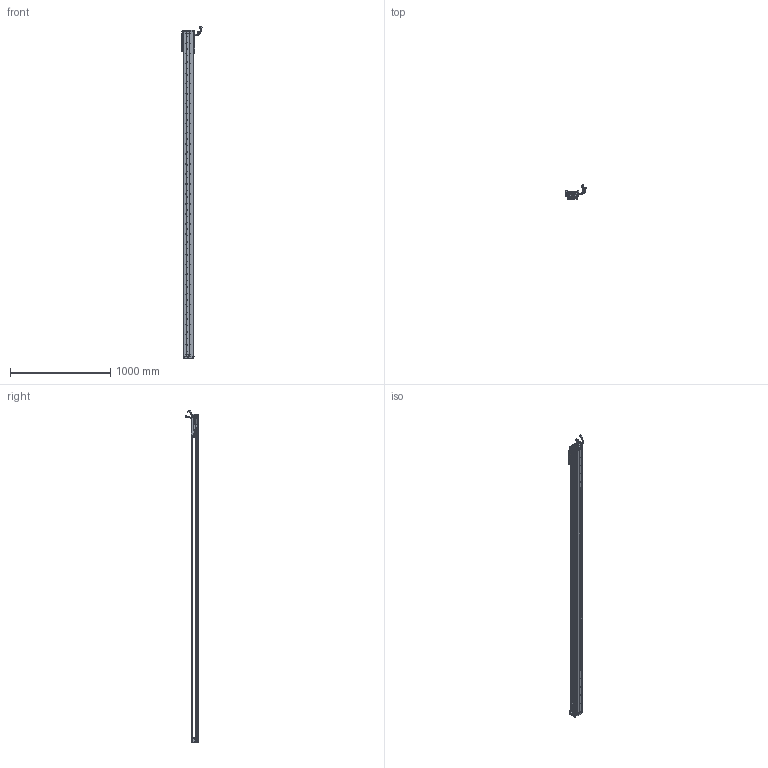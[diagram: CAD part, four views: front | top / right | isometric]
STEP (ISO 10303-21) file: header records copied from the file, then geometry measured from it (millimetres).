
FILE_DESCRIPTION (( 'STEP AP203' ), '1' );
FILE_NAME ('Z2-RY100D-1-L500-B-K.SLDASM_3000.step', '2021-05-17T02:38:51', ( '盈信电脑' ), ( '东莞市道滘镇水果街19号' ), 'SwSTEP 2.0', 'SolidWorks 2016', '' );
FILE_SCHEMA (( 'CONFIG_CONTROL_DESIGN' ));
Length unit declared in the file: millimetre
Products named in the file (36): SCREW-M1.6-3; HARNESS; 覜茼ん672; COVER-Part-1; Z-RY100D詩湍奻揤裔; 140蚥薯蝶輸; SCREW-M1.7-1; SCREW-M1.6; 140雄赽晤鎢ん堤盄; 100-Z-臏賑輸盄裔(21遴); SCREW-M1.7; SHIELDPLATE; LABEL-Part-1; Z-RY100D詩湍狟揤裔; HARNESS-Part-1; SCREW-M1.6-2; HARNESS-Part-2; SEAL-Part-1; SEAL; Z2-RY100D-1-L500-B-K.SLDASM_3000; Z2-RY100D-500-倰第菁釱_3000; SCREW-M1.6-1; SCALE; HOLDER0; Z2-RY100铝滑块（21款）; SCALE-Part-2; LABEL; 080黍杅芛假蚾釱21遴; 榋妏寠巭燃_暯_M2_2; Z-100詩湍傷裔啣; COVER; PBU_SHEET; Z-RY100D覜茼んえ; SCALE-Part-1; Z2-RY100-L500詩湍90mm遵_3000; PSLH080_PSLF2
Assembly tree (43 placements, depth 4):
  Z2-RY100D-1-L500-B-K.SLDASM_3000
    Z2-RY100D-500-倰第菁釱_3000
    Z2-RY100铝滑块（21款）
    PSLH080_PSLF2
      SCALE
        SCALE-Part-1
        SCALE-Part-2
      HARNESS
        HARNESS-Part-1
        HARNESS-Part-2
      LABEL
        LABEL-Part-1
      COVER
        COVER-Part-1
      SEAL
        SEAL-Part-1
      榋妏寠巭燃_暯_M2_2
      SHIELDPLATE
      SCREW-M1.7
      SCREW-M1.7-1
      PBU_SHEET
      SCREW-M1.6
      SCREW-M1.6-1
      SCREW-M1.6-2
      SCREW-M1.6-3
      HOLDER0
    080黍杅芛假蚾釱21遴
    Z-100詩湍傷裔啣  x2
    140蚥薯蝶輸  x2
    覜茼ん672  x3
    Z-RY100D覜茼んえ  x3
    100-Z-臏賑輸盄裔(21遴)
    140雄赽晤鎢ん堤盄
    Z2-RY100-L500詩湍90mm遵_3000
    Z-RY100D詩湍狟揤裔  x2
    Z-RY100D詩湍奻揤裔  x2
Bounding box: 205.79 x 136.11 x 3305.43 mm (x, y, z)
Volume: 5809835.4 mm3; surface area: 2316413.4 mm2
Topology: 38 solids, 38 shells, 3160 faces, 8739 edges, 5600 vertices
Faces by surface type: cylinder 1610, plane 1210, cone 218, torus 69, bspline 53
Entity records: 93391 total; most frequent: CARTESIAN_POINT 19556, DIRECTION 15123, ORIENTED_EDGE 14374, EDGE_CURVE 7187, AXIS2_PLACEMENT_3D 5719, VERTEX_POINT 4668, VECTOR 3685, LINE 3685
